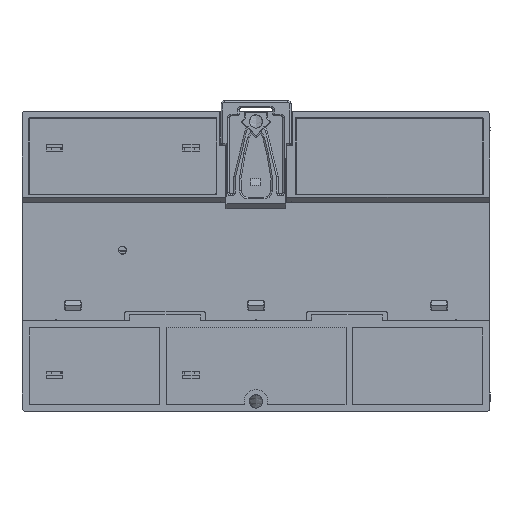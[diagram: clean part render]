
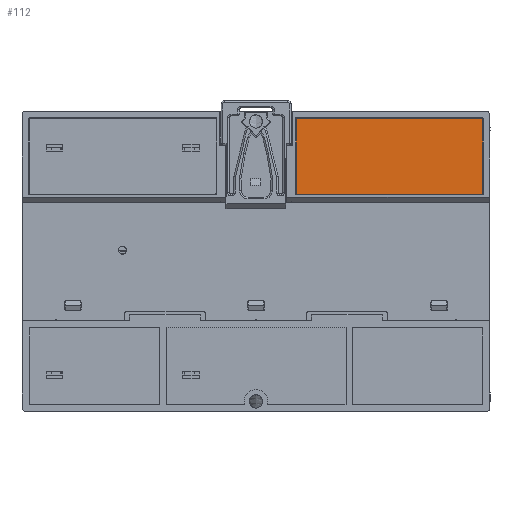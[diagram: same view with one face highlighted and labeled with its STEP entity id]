
A CAD part, front view. The second image highlights one B-rep face of the part: STEP entity #112.
In plain terms, the highlighted planar face has unit normal (0, -1, 0).
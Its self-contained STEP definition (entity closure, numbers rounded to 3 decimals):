
#112=ADVANCED_FACE('',(#4334),#60369,.T.);
#4334=FACE_OUTER_BOUND('',#7910,.T.);
#7910=EDGE_LOOP('',(#12237,#12238,#12239,#12240,#12241,#12242,#12243,#12244));
#12237=ORIENTED_EDGE('',*,*,#32686,.T.);
#12238=ORIENTED_EDGE('',*,*,#32548,.T.);
#12239=ORIENTED_EDGE('',*,*,#32691,.T.);
#12240=ORIENTED_EDGE('',*,*,#32547,.T.);
#12241=ORIENTED_EDGE('',*,*,#32696,.T.);
#12242=ORIENTED_EDGE('',*,*,#32546,.T.);
#12243=ORIENTED_EDGE('',*,*,#32701,.T.);
#12244=ORIENTED_EDGE('',*,*,#32545,.T.);
#32545=EDGE_CURVE('',#52918,#52916,#44137,.T.);
#32546=EDGE_CURVE('',#52920,#52919,#44138,.T.);
#32547=EDGE_CURVE('',#52922,#52921,#44139,.T.);
#32548=EDGE_CURVE('',#52917,#52923,#44140,.T.);
#32686=EDGE_CURVE('',#52916,#52917,#42661,.T.);
#32691=EDGE_CURVE('',#52923,#52922,#42663,.T.);
#32696=EDGE_CURVE('',#52921,#52920,#42665,.T.);
#32701=EDGE_CURVE('',#52919,#52918,#42667,.T.);
#42661=(
BOUNDED_CURVE()
B_SPLINE_CURVE(2,(#94291,#94292,#94293),.UNSPECIFIED.,.F.,.F.)
B_SPLINE_CURVE_WITH_KNOTS((3,3),(0.,0.314),.UNSPECIFIED.)
CURVE()
GEOMETRIC_REPRESENTATION_ITEM()
RATIONAL_B_SPLINE_CURVE((1.,0.707,1.))
REPRESENTATION_ITEM('')
);
#42663=(
BOUNDED_CURVE()
B_SPLINE_CURVE(2,(#94303,#94304,#94305),.UNSPECIFIED.,.F.,.F.)
B_SPLINE_CURVE_WITH_KNOTS((3,3),(0.,0.314),.UNSPECIFIED.)
CURVE()
GEOMETRIC_REPRESENTATION_ITEM()
RATIONAL_B_SPLINE_CURVE((1.,0.707,1.))
REPRESENTATION_ITEM('')
);
#42665=(
BOUNDED_CURVE()
B_SPLINE_CURVE(2,(#94315,#94316,#94317),.UNSPECIFIED.,.F.,.F.)
B_SPLINE_CURVE_WITH_KNOTS((3,3),(0.,0.314),.UNSPECIFIED.)
CURVE()
GEOMETRIC_REPRESENTATION_ITEM()
RATIONAL_B_SPLINE_CURVE((1.,0.707,1.))
REPRESENTATION_ITEM('')
);
#42667=(
BOUNDED_CURVE()
B_SPLINE_CURVE(2,(#94327,#94328,#94329),.UNSPECIFIED.,.F.,.F.)
B_SPLINE_CURVE_WITH_KNOTS((3,3),(0.,0.314),.UNSPECIFIED.)
CURVE()
GEOMETRIC_REPRESENTATION_ITEM()
RATIONAL_B_SPLINE_CURVE((1.,0.707,1.))
REPRESENTATION_ITEM('')
);
#44137=B_SPLINE_CURVE_WITH_KNOTS('',1,(#93924,#93925),.UNSPECIFIED.,.F.,
 .F.,(2,2),(-55.6,0.),.UNSPECIFIED.);
#44138=B_SPLINE_CURVE_WITH_KNOTS('',1,(#93926,#93927),.UNSPECIFIED.,.F.,
 .F.,(2,2),(-22.45,0.),.UNSPECIFIED.);
#44139=B_SPLINE_CURVE_WITH_KNOTS('',1,(#93928,#93929),.UNSPECIFIED.,.F.,
 .F.,(2,2),(-55.6,0.),.UNSPECIFIED.);
#44140=B_SPLINE_CURVE_WITH_KNOTS('',1,(#93930,#93931),.UNSPECIFIED.,.F.,
 .F.,(2,2),(-22.45,0.),.UNSPECIFIED.);
#52916=VERTEX_POINT('',#92084);
#52917=VERTEX_POINT('',#92085);
#52918=VERTEX_POINT('',#92086);
#52919=VERTEX_POINT('',#92087);
#52920=VERTEX_POINT('',#92088);
#52921=VERTEX_POINT('',#92089);
#52922=VERTEX_POINT('',#92090);
#52923=VERTEX_POINT('',#92091);
#60369=PLANE('',#63057);
#63057=AXIS2_PLACEMENT_3D('',#68203,#65624,$);
#65624=DIRECTION('',(0.,-1.,0.));
#68203=CARTESIAN_POINT('',(73.811,3.,45.496));
#92084=CARTESIAN_POINT('',(12.2,3.,43.));
#92085=CARTESIAN_POINT('',(12.,3.,42.8));
#92086=CARTESIAN_POINT('',(67.8,3.,43.));
#92087=CARTESIAN_POINT('',(68.,3.,42.8));
#92088=CARTESIAN_POINT('',(68.,3.,20.35));
#92089=CARTESIAN_POINT('',(67.8,3.,20.15));
#92090=CARTESIAN_POINT('',(12.2,3.,20.15));
#92091=CARTESIAN_POINT('',(12.,3.,20.35));
#93924=CARTESIAN_POINT('',(67.8,3.,43.));
#93925=CARTESIAN_POINT('',(12.2,3.,43.));
#93926=CARTESIAN_POINT('',(68.,3.,20.35));
#93927=CARTESIAN_POINT('',(68.,3.,42.8));
#93928=CARTESIAN_POINT('',(12.2,3.,20.15));
#93929=CARTESIAN_POINT('',(67.8,3.,20.15));
#93930=CARTESIAN_POINT('',(12.,3.,42.8));
#93931=CARTESIAN_POINT('',(12.,3.,20.35));
#94291=CARTESIAN_POINT('',(12.2,3.,43.));
#94292=CARTESIAN_POINT('',(12.,3.,43.));
#94293=CARTESIAN_POINT('',(12.,3.,42.8));
#94303=CARTESIAN_POINT('',(12.,3.,20.35));
#94304=CARTESIAN_POINT('',(12.,3.,20.15));
#94305=CARTESIAN_POINT('',(12.2,3.,20.15));
#94315=CARTESIAN_POINT('',(67.8,3.,20.15));
#94316=CARTESIAN_POINT('',(68.,3.,20.15));
#94317=CARTESIAN_POINT('',(68.,3.,20.35));
#94327=CARTESIAN_POINT('',(68.,3.,42.8));
#94328=CARTESIAN_POINT('',(68.,3.,43.));
#94329=CARTESIAN_POINT('',(67.8,3.,43.));
